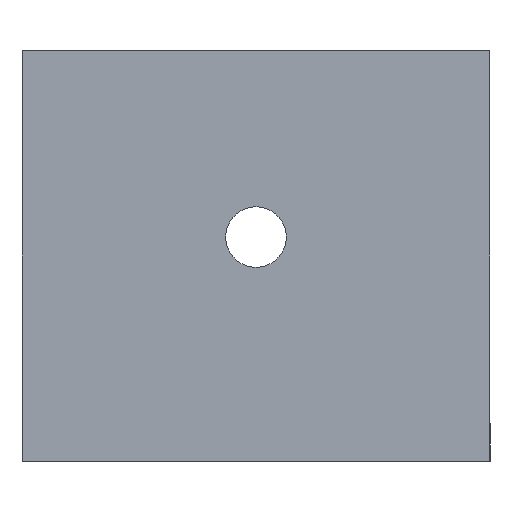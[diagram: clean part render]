
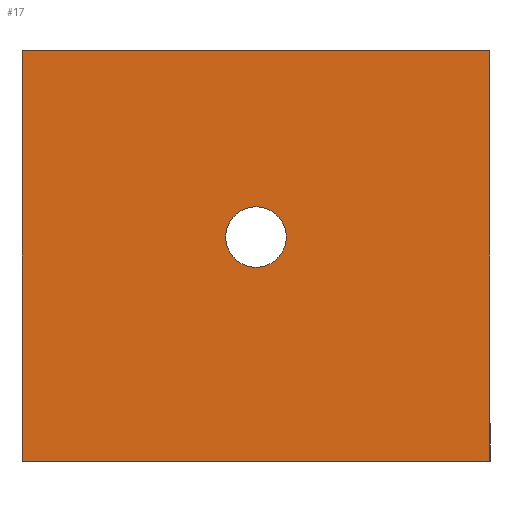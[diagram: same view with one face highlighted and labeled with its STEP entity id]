
A CAD part, left-side view. The second image highlights one B-rep face of the part: STEP entity #17.
In plain terms, the highlighted planar face has unit normal (-1, 0, 0).
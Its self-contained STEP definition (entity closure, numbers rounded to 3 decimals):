
#17 = ADVANCED_FACE('',(#18,#137),#32,.F.);
#18 = FACE_BOUND('',#19,.F.);
#19 = EDGE_LOOP('',(#20,#55,#83,#111));
#20 = ORIENTED_EDGE('',*,*,#21,.F.);
#21 = EDGE_CURVE('',#22,#24,#26,.T.);
#22 = VERTEX_POINT('',#23);
#23 = CARTESIAN_POINT('',(0.,-24.725,0.));
#24 = VERTEX_POINT('',#25);
#25 = CARTESIAN_POINT('',(0.,-24.725,43.4));
#26 = SURFACE_CURVE('',#27,(#31,#43),.PCURVE_S1.);
#27 = LINE('',#28,#29);
#28 = CARTESIAN_POINT('',(0.,-24.725,0.));
#29 = VECTOR('',#30,1.);
#30 = DIRECTION('',(0.,0.,1.));
#31 = PCURVE('',#32,#37);
#32 = PLANE('',#33);
#33 = AXIS2_PLACEMENT_3D('',#34,#35,#36);
#34 = CARTESIAN_POINT('',(0.,-24.725,0.));
#35 = DIRECTION('',(1.,0.,0.));
#36 = DIRECTION('',(0.,0.,1.));
#37 = DEFINITIONAL_REPRESENTATION('',(#38),#42);
#38 = LINE('',#39,#40);
#39 = CARTESIAN_POINT('',(0.,0.));
#40 = VECTOR('',#41,1.);
#41 = DIRECTION('',(1.,0.));
#42 = ( GEOMETRIC_REPRESENTATION_CONTEXT(2) 
PARAMETRIC_REPRESENTATION_CONTEXT() REPRESENTATION_CONTEXT('2D SPACE',''
  ) );
#43 = PCURVE('',#44,#49);
#44 = PLANE('',#45);
#45 = AXIS2_PLACEMENT_3D('',#46,#47,#48);
#46 = CARTESIAN_POINT('',(0.,-24.725,0.));
#47 = DIRECTION('',(0.,1.,0.));
#48 = DIRECTION('',(0.,0.,1.));
#49 = DEFINITIONAL_REPRESENTATION('',(#50),#54);
#50 = LINE('',#51,#52);
#51 = CARTESIAN_POINT('',(0.,0.));
#52 = VECTOR('',#53,1.);
#53 = DIRECTION('',(1.,0.));
#54 = ( GEOMETRIC_REPRESENTATION_CONTEXT(2) 
PARAMETRIC_REPRESENTATION_CONTEXT() REPRESENTATION_CONTEXT('2D SPACE',''
  ) );
#55 = ORIENTED_EDGE('',*,*,#56,.T.);
#56 = EDGE_CURVE('',#22,#57,#59,.T.);
#57 = VERTEX_POINT('',#58);
#58 = CARTESIAN_POINT('',(0.,24.725,0.));
#59 = SURFACE_CURVE('',#60,(#64,#71),.PCURVE_S1.);
#60 = LINE('',#61,#62);
#61 = CARTESIAN_POINT('',(0.,-24.725,0.));
#62 = VECTOR('',#63,1.);
#63 = DIRECTION('',(0.,1.,0.));
#64 = PCURVE('',#32,#65);
#65 = DEFINITIONAL_REPRESENTATION('',(#66),#70);
#66 = LINE('',#67,#68);
#67 = CARTESIAN_POINT('',(0.,0.));
#68 = VECTOR('',#69,1.);
#69 = DIRECTION('',(0.,-1.));
#70 = ( GEOMETRIC_REPRESENTATION_CONTEXT(2) 
PARAMETRIC_REPRESENTATION_CONTEXT() REPRESENTATION_CONTEXT('2D SPACE',''
  ) );
#71 = PCURVE('',#72,#77);
#72 = PLANE('',#73);
#73 = AXIS2_PLACEMENT_3D('',#74,#75,#76);
#74 = CARTESIAN_POINT('',(0.,-24.725,0.));
#75 = DIRECTION('',(0.,0.,1.));
#76 = DIRECTION('',(1.,0.,0.));
#77 = DEFINITIONAL_REPRESENTATION('',(#78),#82);
#78 = LINE('',#79,#80);
#79 = CARTESIAN_POINT('',(0.,0.));
#80 = VECTOR('',#81,1.);
#81 = DIRECTION('',(0.,1.));
#82 = ( GEOMETRIC_REPRESENTATION_CONTEXT(2) 
PARAMETRIC_REPRESENTATION_CONTEXT() REPRESENTATION_CONTEXT('2D SPACE',''
  ) );
#83 = ORIENTED_EDGE('',*,*,#84,.F.);
#84 = EDGE_CURVE('',#85,#57,#87,.T.);
#85 = VERTEX_POINT('',#86);
#86 = CARTESIAN_POINT('',(0.,24.725,43.4));
#87 = SURFACE_CURVE('',#88,(#92,#99),.PCURVE_S1.);
#88 = LINE('',#89,#90);
#89 = CARTESIAN_POINT('',(0.,24.725,43.4));
#90 = VECTOR('',#91,1.);
#91 = DIRECTION('',(0.,0.,-1.));
#92 = PCURVE('',#32,#93);
#93 = DEFINITIONAL_REPRESENTATION('',(#94),#98);
#94 = LINE('',#95,#96);
#95 = CARTESIAN_POINT('',(43.4,-49.45));
#96 = VECTOR('',#97,1.);
#97 = DIRECTION('',(-1.,0.));
#98 = ( GEOMETRIC_REPRESENTATION_CONTEXT(2) 
PARAMETRIC_REPRESENTATION_CONTEXT() REPRESENTATION_CONTEXT('2D SPACE',''
  ) );
#99 = PCURVE('',#100,#105);
#100 = PLANE('',#101);
#101 = AXIS2_PLACEMENT_3D('',#102,#103,#104);
#102 = CARTESIAN_POINT('',(0.,24.725,0.));
#103 = DIRECTION('',(0.,1.,0.));
#104 = DIRECTION('',(0.,0.,1.));
#105 = DEFINITIONAL_REPRESENTATION('',(#106),#110);
#106 = LINE('',#107,#108);
#107 = CARTESIAN_POINT('',(43.4,0.));
#108 = VECTOR('',#109,1.);
#109 = DIRECTION('',(-1.,0.));
#110 = ( GEOMETRIC_REPRESENTATION_CONTEXT(2) 
PARAMETRIC_REPRESENTATION_CONTEXT() REPRESENTATION_CONTEXT('2D SPACE',''
  ) );
#111 = ORIENTED_EDGE('',*,*,#112,.F.);
#112 = EDGE_CURVE('',#24,#85,#113,.T.);
#113 = SURFACE_CURVE('',#114,(#118,#125),.PCURVE_S1.);
#114 = LINE('',#115,#116);
#115 = CARTESIAN_POINT('',(0.,-24.725,43.4));
#116 = VECTOR('',#117,1.);
#117 = DIRECTION('',(0.,1.,0.));
#118 = PCURVE('',#32,#119);
#119 = DEFINITIONAL_REPRESENTATION('',(#120),#124);
#120 = LINE('',#121,#122);
#121 = CARTESIAN_POINT('',(43.4,0.));
#122 = VECTOR('',#123,1.);
#123 = DIRECTION('',(0.,-1.));
#124 = ( GEOMETRIC_REPRESENTATION_CONTEXT(2) 
PARAMETRIC_REPRESENTATION_CONTEXT() REPRESENTATION_CONTEXT('2D SPACE',''
  ) );
#125 = PCURVE('',#126,#131);
#126 = PLANE('',#127);
#127 = AXIS2_PLACEMENT_3D('',#128,#129,#130);
#128 = CARTESIAN_POINT('',(0.,-24.725,43.4));
#129 = DIRECTION('',(0.,0.,1.));
#130 = DIRECTION('',(1.,0.,0.));
#131 = DEFINITIONAL_REPRESENTATION('',(#132),#136);
#132 = LINE('',#133,#134);
#133 = CARTESIAN_POINT('',(0.,0.));
#134 = VECTOR('',#135,1.);
#135 = DIRECTION('',(0.,1.));
#136 = ( GEOMETRIC_REPRESENTATION_CONTEXT(2) 
PARAMETRIC_REPRESENTATION_CONTEXT() REPRESENTATION_CONTEXT('2D SPACE',''
  ) );
#137 = FACE_BOUND('',#138,.F.);
#138 = EDGE_LOOP('',(#139));
#139 = ORIENTED_EDGE('',*,*,#140,.F.);
#140 = EDGE_CURVE('',#141,#141,#143,.T.);
#141 = VERTEX_POINT('',#142);
#142 = CARTESIAN_POINT('',(-0.,3.2,23.7));
#143 = SURFACE_CURVE('',#144,(#149,#156),.PCURVE_S1.);
#144 = CIRCLE('',#145,3.2);
#145 = AXIS2_PLACEMENT_3D('',#146,#147,#148);
#146 = CARTESIAN_POINT('',(0.,0.,23.7));
#147 = DIRECTION('',(1.,0.,0.));
#148 = DIRECTION('',(0.,1.,0.));
#149 = PCURVE('',#32,#150);
#150 = DEFINITIONAL_REPRESENTATION('',(#151),#155);
#151 = CIRCLE('',#152,3.2);
#152 = AXIS2_PLACEMENT_2D('',#153,#154);
#153 = CARTESIAN_POINT('',(23.7,-24.725));
#154 = DIRECTION('',(0.,-1.));
#155 = ( GEOMETRIC_REPRESENTATION_CONTEXT(2) 
PARAMETRIC_REPRESENTATION_CONTEXT() REPRESENTATION_CONTEXT('2D SPACE',''
  ) );
#156 = PCURVE('',#157,#162);
#157 = CYLINDRICAL_SURFACE('',#158,3.2);
#158 = AXIS2_PLACEMENT_3D('',#159,#160,#161);
#159 = CARTESIAN_POINT('',(0.,0.,23.7));
#160 = DIRECTION('',(1.,0.,0.));
#161 = DIRECTION('',(0.,1.,0.));
#162 = DEFINITIONAL_REPRESENTATION('',(#163),#167);
#163 = LINE('',#164,#165);
#164 = CARTESIAN_POINT('',(0.,0.));
#165 = VECTOR('',#166,1.);
#166 = DIRECTION('',(1.,0.));
#167 = ( GEOMETRIC_REPRESENTATION_CONTEXT(2) 
PARAMETRIC_REPRESENTATION_CONTEXT() REPRESENTATION_CONTEXT('2D SPACE',''
  ) );
